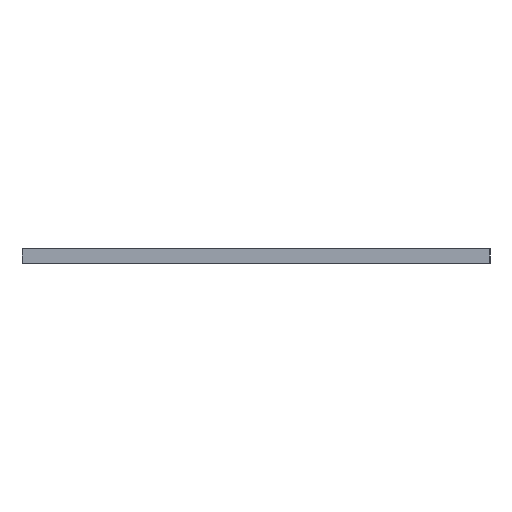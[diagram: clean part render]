
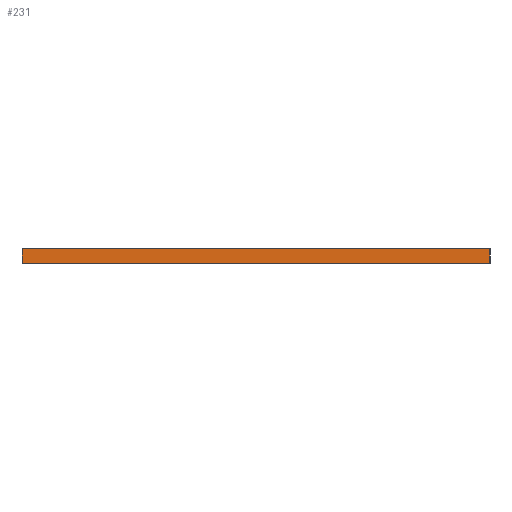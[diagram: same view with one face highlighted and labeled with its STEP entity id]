
A CAD part, left-side view. The second image highlights one B-rep face of the part: STEP entity #231.
In plain terms, the highlighted planar face has unit normal (-1, 0, 0).
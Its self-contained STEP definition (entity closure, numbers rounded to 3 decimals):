
#50 = PLANE('',#51);
#51 = AXIS2_PLACEMENT_3D('',#52,#53,#54);
#52 = CARTESIAN_POINT('',(80.,-50.,0.));
#53 = DIRECTION('',(0.,-1.,0.));
#54 = DIRECTION('',(-1.,0.,0.));
#75 = VERTEX_POINT('',#76);
#76 = CARTESIAN_POINT('',(0.,-50.,1.6));
#90 = PLANE('',#91);
#91 = AXIS2_PLACEMENT_3D('',#92,#93,#94);
#92 = CARTESIAN_POINT('',(40.,-25.,1.6));
#93 = DIRECTION('',(-0.,-0.,-1.));
#94 = DIRECTION('',(-1.,0.,0.));
#102 = EDGE_CURVE('',#103,#75,#105,.T.);
#103 = VERTEX_POINT('',#104);
#104 = CARTESIAN_POINT('',(0.,-50.,0.));
#105 = SURFACE_CURVE('',#106,(#110,#117),.PCURVE_S1.);
#106 = LINE('',#107,#108);
#107 = CARTESIAN_POINT('',(0.,-50.,0.));
#108 = VECTOR('',#109,1.);
#109 = DIRECTION('',(0.,0.,1.));
#110 = PCURVE('',#50,#111);
#111 = DEFINITIONAL_REPRESENTATION('',(#112),#116);
#112 = LINE('',#113,#114);
#113 = CARTESIAN_POINT('',(80.,0.));
#114 = VECTOR('',#115,1.);
#115 = DIRECTION('',(0.,-1.));
#116 = ( GEOMETRIC_REPRESENTATION_CONTEXT(2) 
PARAMETRIC_REPRESENTATION_CONTEXT() REPRESENTATION_CONTEXT('2D SPACE',''
  ) );
#117 = PCURVE('',#118,#123);
#118 = PLANE('',#119);
#119 = AXIS2_PLACEMENT_3D('',#120,#121,#122);
#120 = CARTESIAN_POINT('',(0.,-50.,0.));
#121 = DIRECTION('',(-1.,0.,0.));
#122 = DIRECTION('',(0.,1.,0.));
#123 = DEFINITIONAL_REPRESENTATION('',(#124),#128);
#124 = LINE('',#125,#126);
#125 = CARTESIAN_POINT('',(0.,0.));
#126 = VECTOR('',#127,1.);
#127 = DIRECTION('',(0.,-1.));
#128 = ( GEOMETRIC_REPRESENTATION_CONTEXT(2) 
PARAMETRIC_REPRESENTATION_CONTEXT() REPRESENTATION_CONTEXT('2D SPACE',''
  ) );
#144 = PLANE('',#145);
#145 = AXIS2_PLACEMENT_3D('',#146,#147,#148);
#146 = CARTESIAN_POINT('',(40.,-25.,0.));
#147 = DIRECTION('',(-0.,-0.,-1.));
#148 = DIRECTION('',(-1.,0.,0.));
#177 = PLANE('',#178);
#178 = AXIS2_PLACEMENT_3D('',#179,#180,#181);
#179 = CARTESIAN_POINT('',(0.,0.,0.));
#180 = DIRECTION('',(0.,1.,0.));
#181 = DIRECTION('',(1.,0.,0.));
#231 = ADVANCED_FACE('',(#232),#118,.T.);
#232 = FACE_BOUND('',#233,.T.);
#233 = EDGE_LOOP('',(#234,#235,#258,#281));
#234 = ORIENTED_EDGE('',*,*,#102,.T.);
#235 = ORIENTED_EDGE('',*,*,#236,.T.);
#236 = EDGE_CURVE('',#75,#237,#239,.T.);
#237 = VERTEX_POINT('',#238);
#238 = CARTESIAN_POINT('',(0.,0.,1.6));
#239 = SURFACE_CURVE('',#240,(#244,#251),.PCURVE_S1.);
#240 = LINE('',#241,#242);
#241 = CARTESIAN_POINT('',(0.,-50.,1.6));
#242 = VECTOR('',#243,1.);
#243 = DIRECTION('',(0.,1.,0.));
#244 = PCURVE('',#118,#245);
#245 = DEFINITIONAL_REPRESENTATION('',(#246),#250);
#246 = LINE('',#247,#248);
#247 = CARTESIAN_POINT('',(0.,-1.6));
#248 = VECTOR('',#249,1.);
#249 = DIRECTION('',(1.,0.));
#250 = ( GEOMETRIC_REPRESENTATION_CONTEXT(2) 
PARAMETRIC_REPRESENTATION_CONTEXT() REPRESENTATION_CONTEXT('2D SPACE',''
  ) );
#251 = PCURVE('',#90,#252);
#252 = DEFINITIONAL_REPRESENTATION('',(#253),#257);
#253 = LINE('',#254,#255);
#254 = CARTESIAN_POINT('',(40.,-25.));
#255 = VECTOR('',#256,1.);
#256 = DIRECTION('',(0.,1.));
#257 = ( GEOMETRIC_REPRESENTATION_CONTEXT(2) 
PARAMETRIC_REPRESENTATION_CONTEXT() REPRESENTATION_CONTEXT('2D SPACE',''
  ) );
#258 = ORIENTED_EDGE('',*,*,#259,.F.);
#259 = EDGE_CURVE('',#260,#237,#262,.T.);
#260 = VERTEX_POINT('',#261);
#261 = CARTESIAN_POINT('',(0.,-0.,0.));
#262 = SURFACE_CURVE('',#263,(#267,#274),.PCURVE_S1.);
#263 = LINE('',#264,#265);
#264 = CARTESIAN_POINT('',(0.,-0.,0.));
#265 = VECTOR('',#266,1.);
#266 = DIRECTION('',(0.,0.,1.));
#267 = PCURVE('',#118,#268);
#268 = DEFINITIONAL_REPRESENTATION('',(#269),#273);
#269 = LINE('',#270,#271);
#270 = CARTESIAN_POINT('',(50.,0.));
#271 = VECTOR('',#272,1.);
#272 = DIRECTION('',(0.,-1.));
#273 = ( GEOMETRIC_REPRESENTATION_CONTEXT(2) 
PARAMETRIC_REPRESENTATION_CONTEXT() REPRESENTATION_CONTEXT('2D SPACE',''
  ) );
#274 = PCURVE('',#177,#275);
#275 = DEFINITIONAL_REPRESENTATION('',(#276),#280);
#276 = LINE('',#277,#278);
#277 = CARTESIAN_POINT('',(0.,0.));
#278 = VECTOR('',#279,1.);
#279 = DIRECTION('',(0.,-1.));
#280 = ( GEOMETRIC_REPRESENTATION_CONTEXT(2) 
PARAMETRIC_REPRESENTATION_CONTEXT() REPRESENTATION_CONTEXT('2D SPACE',''
  ) );
#281 = ORIENTED_EDGE('',*,*,#282,.F.);
#282 = EDGE_CURVE('',#103,#260,#283,.T.);
#283 = SURFACE_CURVE('',#284,(#288,#295),.PCURVE_S1.);
#284 = LINE('',#285,#286);
#285 = CARTESIAN_POINT('',(0.,-50.,0.));
#286 = VECTOR('',#287,1.);
#287 = DIRECTION('',(0.,1.,0.));
#288 = PCURVE('',#118,#289);
#289 = DEFINITIONAL_REPRESENTATION('',(#290),#294);
#290 = LINE('',#291,#292);
#291 = CARTESIAN_POINT('',(0.,0.));
#292 = VECTOR('',#293,1.);
#293 = DIRECTION('',(1.,0.));
#294 = ( GEOMETRIC_REPRESENTATION_CONTEXT(2) 
PARAMETRIC_REPRESENTATION_CONTEXT() REPRESENTATION_CONTEXT('2D SPACE',''
  ) );
#295 = PCURVE('',#144,#296);
#296 = DEFINITIONAL_REPRESENTATION('',(#297),#301);
#297 = LINE('',#298,#299);
#298 = CARTESIAN_POINT('',(40.,-25.));
#299 = VECTOR('',#300,1.);
#300 = DIRECTION('',(0.,1.));
#301 = ( GEOMETRIC_REPRESENTATION_CONTEXT(2) 
PARAMETRIC_REPRESENTATION_CONTEXT() REPRESENTATION_CONTEXT('2D SPACE',''
  ) );
